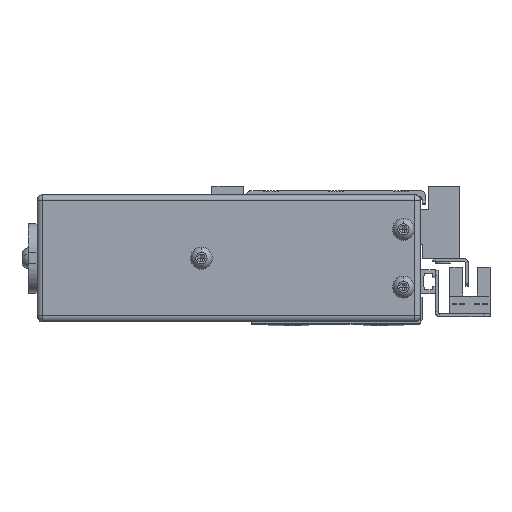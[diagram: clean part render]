
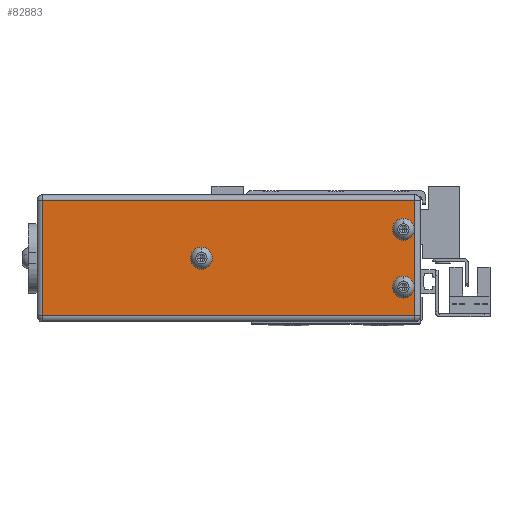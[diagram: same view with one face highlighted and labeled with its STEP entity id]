
A CAD part, top view. The second image highlights one B-rep face of the part: STEP entity #82883.
In plain terms, the highlighted planar face has unit normal (0, 0, 1).
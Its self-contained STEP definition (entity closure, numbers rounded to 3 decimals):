
#1261 = EDGE_LOOP ( 'NONE', ( #117819, #37503 ) ) ;
#1653 = EDGE_LOOP ( 'NONE', ( #168717, #93993, #78208, #141145 ) ) ;
#2448 = ORIENTED_EDGE ( 'NONE', *, *, #122567, .F. ) ;
#4738 = LINE ( 'NONE', #154876, #60797 ) ;
#5685 = ORIENTED_EDGE ( 'NONE', *, *, #122352, .F. ) ;
#6656 = CARTESIAN_POINT ( 'NONE',  ( -112.411, 0.921, 163. ) ) ;
#7091 = EDGE_LOOP ( 'NONE', ( #63020, #147003 ) ) ;
#8263 = CARTESIAN_POINT ( 'NONE',  ( -110.161, 20.921, 163. ) ) ;
#8842 = CARTESIAN_POINT ( 'NONE',  ( -112.411, 20.921, 163. ) ) ;
#9185 = DIRECTION ( 'NONE',  ( 1., 0., 0. ) ) ;
#9552 = DIRECTION ( 'NONE',  ( 0., 0., 1. ) ) ;
#14405 = EDGE_CURVE ( 'NONE', #72745, #36799, #162213, .T. ) ;
#16809 = EDGE_LOOP ( 'NONE', ( #5685, #2448 ) ) ;
#17148 = CIRCLE ( 'NONE', #72879, 2.25 ) ;
#17422 = VERTEX_POINT ( 'NONE', #59436 ) ;
#17537 = AXIS2_PLACEMENT_3D ( 'NONE', #8263, #92218, #175671 ) ;
#22312 = EDGE_CURVE ( 'NONE', #17422, #72745, #133606, .T. ) ;
#31952 = VECTOR ( 'NONE', #142289, 1000. ) ;
#33499 = FACE_OUTER_BOUND ( 'NONE', #1653, .T. ) ;
#34294 = DIRECTION ( 'NONE',  ( 1., 0., 0. ) ) ;
#35288 = CARTESIAN_POINT ( 'NONE',  ( -114.161, -11.079, 163. ) ) ;
#36799 = VERTEX_POINT ( 'NONE', #173941 ) ;
#37503 = ORIENTED_EDGE ( 'NONE', *, *, #119960, .F. ) ;
#42095 = FACE_BOUND ( 'NONE', #16809, .T. ) ;
#42471 = EDGE_CURVE ( 'NONE', #78223, #17422, #4738, .T. ) ;
#42939 = EDGE_CURVE ( 'NONE', #87619, #174835, #166483, .T. ) ;
#46329 = CARTESIAN_POINT ( 'NONE',  ( -42.411, 10.921, 163. ) ) ;
#57274 = VERTEX_POINT ( 'NONE', #69482 ) ;
#59436 = CARTESIAN_POINT ( 'NONE',  ( 14.839, 30.921, 163. ) ) ;
#60797 = VECTOR ( 'NONE', #96918, 1000. ) ;
#60948 = DIRECTION ( 'NONE',  ( -1., 0., 0. ) ) ;
#62586 = EDGE_CURVE ( 'NONE', #36799, #78223, #64040, .T. ) ;
#63020 = ORIENTED_EDGE ( 'NONE', *, *, #42939, .F. ) ;
#64040 = LINE ( 'NONE', #126591, #66342 ) ;
#66342 = VECTOR ( 'NONE', #85477, 1000. ) ;
#67256 = VERTEX_POINT ( 'NONE', #8842 ) ;
#69482 = CARTESIAN_POINT ( 'NONE',  ( -107.911, 20.921, 163. ) ) ;
#72745 = VERTEX_POINT ( 'NONE', #164160 ) ;
#72879 = AXIS2_PLACEMENT_3D ( 'NONE', #80589, #106698, #177338 ) ;
#77250 = CARTESIAN_POINT ( 'NONE',  ( 14.839, -9.079, 163. ) ) ;
#78208 = ORIENTED_EDGE ( 'NONE', *, *, #14405, .T. ) ;
#78223 = VERTEX_POINT ( 'NONE', #77250 ) ;
#78244 = CIRCLE ( 'NONE', #17537, 2.25 ) ;
#78963 = EDGE_CURVE ( 'NONE', #174835, #87619, #17148, .T. ) ;
#79580 = EDGE_CURVE ( 'NONE', #159928, #81624, #163897, .T. ) ;
#80455 = CIRCLE ( 'NONE', #119491, 2.25 ) ;
#80456 = AXIS2_PLACEMENT_3D ( 'NONE', #132888, #9552, #106260 ) ;
#80589 = CARTESIAN_POINT ( 'NONE',  ( -110.161, 0.921, 163. ) ) ;
#81624 = VERTEX_POINT ( 'NONE', #46329 ) ;
#82883 = ADVANCED_FACE ( 'NONE', ( #152420, #139473, #42095, #33499 ), #159514, .F. ) ;
#84493 = AXIS2_PLACEMENT_3D ( 'NONE', #117948, #120331, #9185 ) ;
#85477 = DIRECTION ( 'NONE',  ( 1., 0., 0. ) ) ;
#86958 = DIRECTION ( 'NONE',  ( 1., 0., 0. ) ) ;
#87419 = DIRECTION ( 'NONE',  ( 0., 0., 1. ) ) ;
#87619 = VERTEX_POINT ( 'NONE', #138383 ) ;
#92218 = DIRECTION ( 'NONE',  ( 0., 0., 1. ) ) ;
#93993 = ORIENTED_EDGE ( 'NONE', *, *, #22312, .T. ) ;
#96918 = DIRECTION ( 'NONE',  ( 0., 1., 0. ) ) ;
#101528 = CARTESIAN_POINT ( 'NONE',  ( -110.161, 0.921, 163. ) ) ;
#106260 = DIRECTION ( 'NONE',  ( 1., 0., 0. ) ) ;
#106698 = DIRECTION ( 'NONE',  ( 0., 0., 1. ) ) ;
#114746 = DIRECTION ( 'NONE',  ( 0., 0., 1. ) ) ;
#116416 = CARTESIAN_POINT ( 'NONE',  ( -110.161, 20.921, 163. ) ) ;
#117819 = ORIENTED_EDGE ( 'NONE', *, *, #79580, .F. ) ;
#117948 = CARTESIAN_POINT ( 'NONE',  ( -40.161, 10.921, 163. ) ) ;
#118899 = CARTESIAN_POINT ( 'NONE',  ( -37.911, 10.921, 163. ) ) ;
#119491 = AXIS2_PLACEMENT_3D ( 'NONE', #116416, #87419, #34294 ) ;
#119960 = EDGE_CURVE ( 'NONE', #81624, #159928, #138033, .T. ) ;
#120331 = DIRECTION ( 'NONE',  ( 0., 0., 1. ) ) ;
#122352 = EDGE_CURVE ( 'NONE', #57274, #67256, #80455, .T. ) ;
#122567 = EDGE_CURVE ( 'NONE', #67256, #57274, #78244, .T. ) ;
#126591 = CARTESIAN_POINT ( 'NONE',  ( -116.161, -9.079, 163. ) ) ;
#129531 = CARTESIAN_POINT ( 'NONE',  ( -116.161, 30.921, 163. ) ) ;
#132888 = CARTESIAN_POINT ( 'NONE',  ( -40.161, 10.921, 163. ) ) ;
#133606 = LINE ( 'NONE', #129531, #31952 ) ;
#138033 = CIRCLE ( 'NONE', #80456, 2.25 ) ;
#138383 = CARTESIAN_POINT ( 'NONE',  ( -107.911, 0.921, 163. ) ) ;
#139473 = FACE_BOUND ( 'NONE', #7091, .T. ) ;
#141145 = ORIENTED_EDGE ( 'NONE', *, *, #62586, .T. ) ;
#142289 = DIRECTION ( 'NONE',  ( -1., 0., 0. ) ) ;
#145673 = DIRECTION ( 'NONE',  ( 0., 0., -1. ) ) ;
#147003 = ORIENTED_EDGE ( 'NONE', *, *, #78963, .F. ) ;
#147087 = DIRECTION ( 'NONE',  ( 0., -1., 0. ) ) ;
#152420 = FACE_BOUND ( 'NONE', #1261, .T. ) ;
#154876 = CARTESIAN_POINT ( 'NONE',  ( 14.839, -11.079, 163. ) ) ;
#157741 = CARTESIAN_POINT ( 'NONE',  ( -116.161, -11.079, 163. ) ) ;
#159514 = PLANE ( 'NONE',  #168755 ) ;
#159928 = VERTEX_POINT ( 'NONE', #118899 ) ;
#160125 = VECTOR ( 'NONE', #147087, 1000. ) ;
#162213 = LINE ( 'NONE', #35288, #160125 ) ;
#163357 = AXIS2_PLACEMENT_3D ( 'NONE', #101528, #114746, #86958 ) ;
#163897 = CIRCLE ( 'NONE', #84493, 2.25 ) ;
#164160 = CARTESIAN_POINT ( 'NONE',  ( -114.161, 30.921, 163. ) ) ;
#166483 = CIRCLE ( 'NONE', #163357, 2.25 ) ;
#168717 = ORIENTED_EDGE ( 'NONE', *, *, #42471, .T. ) ;
#168755 = AXIS2_PLACEMENT_3D ( 'NONE', #157741, #145673, #60948 ) ;
#173941 = CARTESIAN_POINT ( 'NONE',  ( -114.161, -9.079, 163. ) ) ;
#174835 = VERTEX_POINT ( 'NONE', #6656 ) ;
#175671 = DIRECTION ( 'NONE',  ( 1., 0., 0. ) ) ;
#177338 = DIRECTION ( 'NONE',  ( 1., 0., 0. ) ) ;
